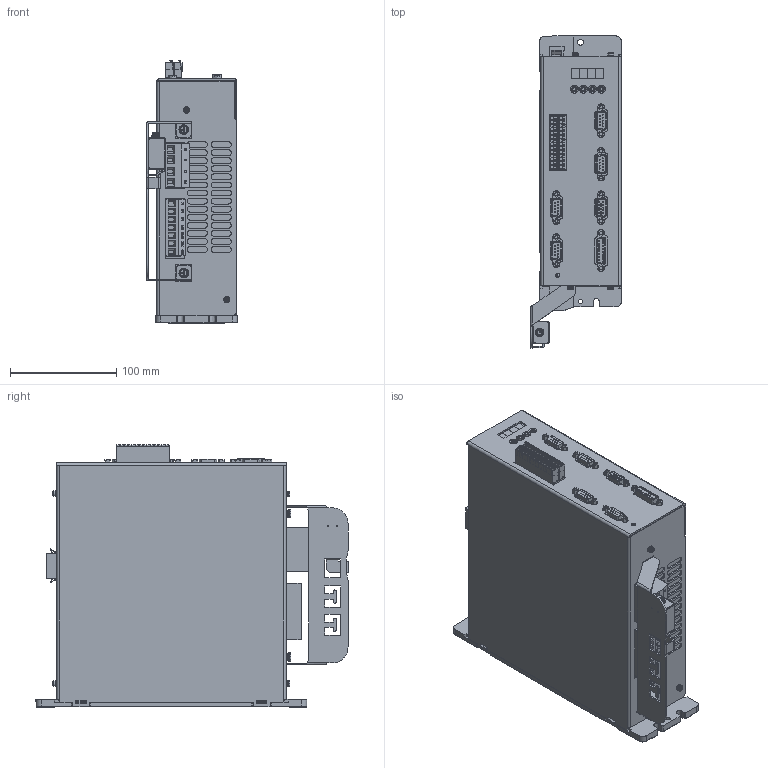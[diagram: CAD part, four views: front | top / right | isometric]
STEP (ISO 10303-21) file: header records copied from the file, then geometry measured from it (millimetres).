
FILE_DESCRIPTION (( 'STEP AP214' ), '1' );
FILE_NAME ('JD640-AA_K313_3D.STEP', '2021-10-28T01:14:31', ( 'o' ), ( 'o' ), 'SwSTEP 2.0', 'SolidWorks 2014', '' );
FILE_SCHEMA (( 'AUTOMOTIVE_DESIGN' ));
Products named in the file (1): JD640-AA_K313_3D
Bounding box: 85.5 x 293.9 x 247.01 mm (x, y, z)
Surface area: 517046.9 mm2 (no closed solid volume)
Topology: 0 solids, 1 shells, 4708 faces, 13315 edges, 8947 vertices
Faces by surface type: plane 3276, cylinder 1057, bspline 315, cone 60
Entity records: 211453 total; most frequent: CARTESIAN_POINT 99584, ORIENTED_EDGE 26604, DIRECTION 17389, EDGE_CURVE 13306, VERTEX_POINT 8949, VECTOR 7557, LINE 7557, EDGE_LOOP 5367
